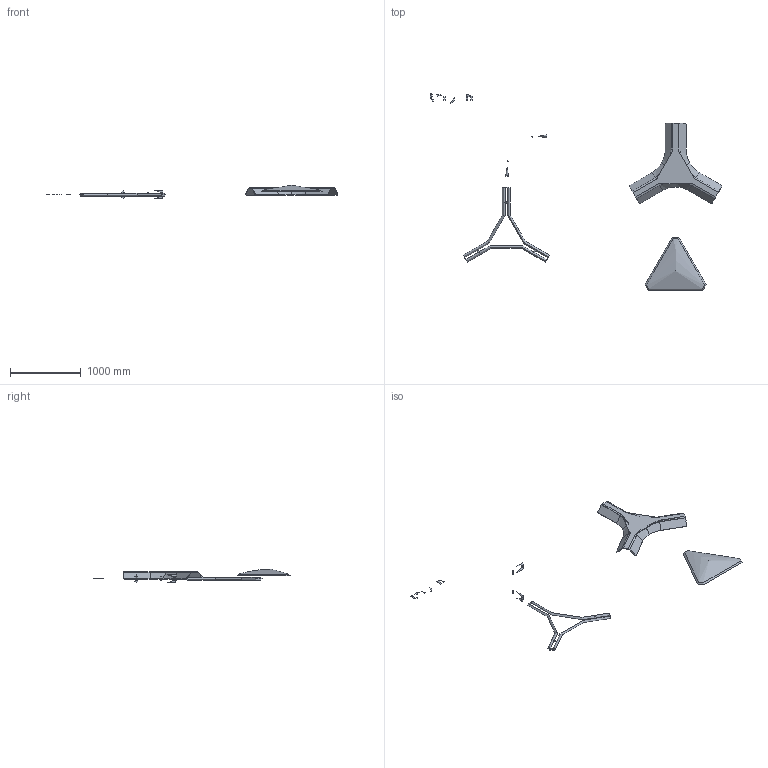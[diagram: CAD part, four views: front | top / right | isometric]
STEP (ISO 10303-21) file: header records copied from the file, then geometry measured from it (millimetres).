
FILE_DESCRIPTION(/* description */ (''),/* implementation_level */ '2;1');
FILE_NAME(/* name */ 'trigon',/* time_stamp */ '2025-12-18T14:52:22+01:00',/* author */ (''),/* organization */ (''),/* preprocessor_version */ 'ST-DEVELOPER v19.2',/* originating_system */ 'Rhino 8.25',/* authorisation */ '');
FILE_SCHEMA (('CONFIG_CONTROL_DESIGN'));
Length unit declared in the file: millimetre
Products named in the file (1): Document
Bounding box: 4122.08 x 2783.1 x 191.17 mm (x, y, z)
Volume: 12476676.7 mm3; surface area: 2541796.4 mm2
Topology: 16 solids, 24 shells, 161 faces, 456 edges, 407 vertices
Faces by surface type: plane 72, bspline 59, cylinder 30
Full cylindrical faces by diameter (mm): 20 x5, 40 x7
Entity records: 11427 total; most frequent: CARTESIAN_POINT 8605, ORIENTED_EDGE 640, EDGE_CURVE 349, B_SPLINE_CURVE_WITH_KNOTS 280, DIRECTION 270, VERTEX_POINT 225, AXIS2_PLACEMENT_3D 182, EDGE_LOOP 163
